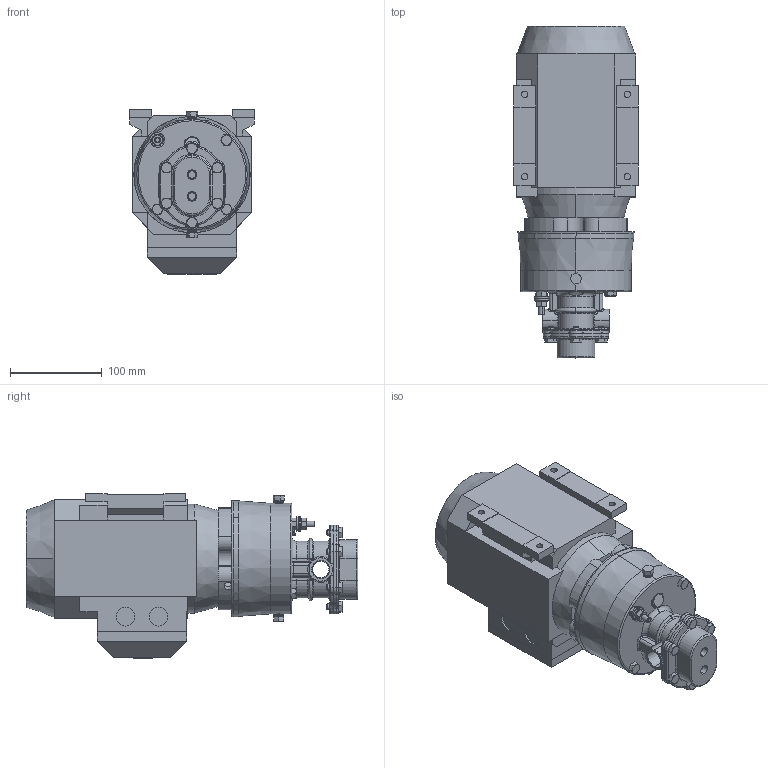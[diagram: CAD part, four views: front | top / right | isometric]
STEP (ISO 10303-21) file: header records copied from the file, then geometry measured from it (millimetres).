
FILE_DESCRIPTION (( 'STEP AP214' ), '1' );
FILE_NAME ('E05M FNPT 71F.STEP', '2025-03-05T19:25:43', ( '' ), ( '' ), 'SwSTEP 2.0', 'SolidWorks 2021', '' );
FILE_SCHEMA (( 'AUTOMOTIVE_DESIGN' ));
Length unit declared in the file: inch
Products named in the file (1): E05M FNPT 71F
Bounding box: 136 x 362.17 x 180 mm (x, y, z)
Volume: 3885928.6 mm3; surface area: 336969.9 mm2
Topology: 23 solids, 23 shells, 1329 faces, 3521 edges, 2246 vertices
Faces by surface type: cylinder 498, plane 431, cone 203, torus 117, bspline 44, sphere 36
Entity records: 67807 total; most frequent: CARTESIAN_POINT 17389, ORIENTED_EDGE 6942, DIRECTION 6878, EDGE_CURVE 3471, AXIS2_PLACEMENT_3D 2711, VERTEX_POINT 2246, EDGE_LOOP 1487, VECTOR 1456
